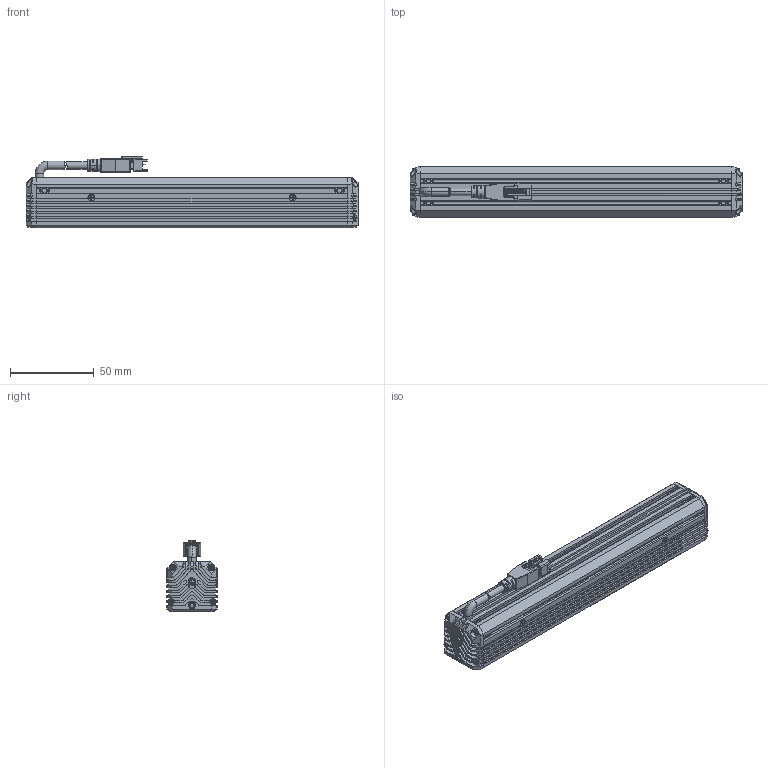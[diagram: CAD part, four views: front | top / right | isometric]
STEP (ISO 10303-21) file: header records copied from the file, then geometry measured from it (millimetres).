
FILE_DESCRIPTION((''),'2;1');
FILE_NAME('MV-LLDS-H-200-30-W-PL_ASM','2024-04-08T12:06:55',('huguozhe'),(''),'CREO PARAMETRIC BY PTC INC, 2020044','CREO PARAMETRIC BY PTC INC, 2020044','');
FILE_SCHEMA(('AUTOMOTIVE_DESIGN { 1 0 10303 214 1 1 1 1 }'));
Length unit declared in the file: millimetre
Products named in the file (15): DE-15-001256; DE-15-001255_ASM; DE-15-000480; DE-15-000479_ASM; DE-12-002271; TIP-M3X4-4_5X5-SO-ET-07061033; DE-12-002271_ASM; DE-12-001571; SC-KM2X6-BNI-GB819; XIANLAN_HEAD; CABLE_HEAD; CABLE_HEAD_ASM_ASM; 190100852; SC-PM2X6B-JMP; MV-LLDS-H-200-30-W-PL_ASM
Assembly tree (31 placements, depth 3):
  MV-LLDS-H-200-30-W-PL_ASM
    DE-15-001255_ASM
      DE-15-001256
    DE-15-000479_ASM
      DE-15-000480
    DE-12-002271_ASM  x2
      DE-12-002271
      TIP-M3X4-4_5X5-SO-ET-07061033
    DE-12-001571
    SC-KM2X6-BNI-GB819  x2
    CABLE_HEAD_ASM_ASM
      XIANLAN_HEAD
      CABLE_HEAD
    190100852  x8
    SC-PM2X6B-JMP  x8
Bounding box: 198 x 30 x 42.65 mm (x, y, z)
Volume: 137499.8 mm3; surface area: 80382.9 mm2
Topology: 29 solids, 61 shells, 2680 faces, 6950 edges, 4385 vertices
Faces by surface type: plane 1284, cylinder 578, bspline 472, cone 291, torus 46, sphere 8, extrusion 1
Entity records: 47147 total; most frequent: CARTESIAN_POINT 11056, ORIENTED_EDGE 6018, DIRECTION 5773, EDGE_CURVE 3037, VECTOR 1953, LINE 1952, VERTEX_POINT 1946, AXIS2_PLACEMENT_3D 1910
